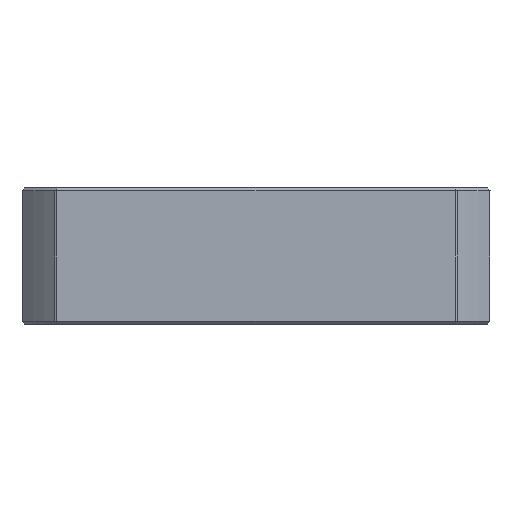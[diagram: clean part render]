
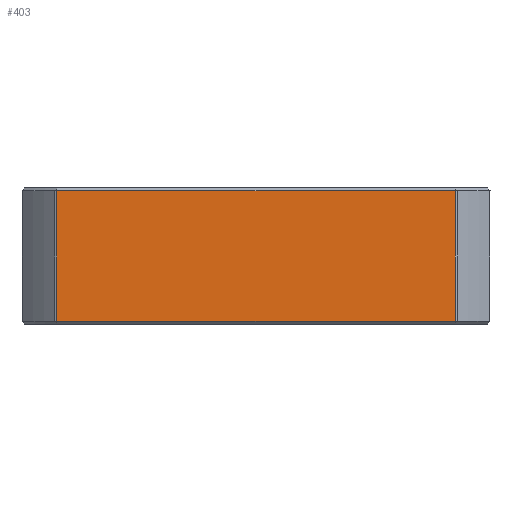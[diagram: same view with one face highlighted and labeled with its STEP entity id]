
A CAD part, left-side view. The second image highlights one B-rep face of the part: STEP entity #403.
In plain terms, the highlighted planar face has unit normal (-1, 0, 0).
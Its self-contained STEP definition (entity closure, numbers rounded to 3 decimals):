
#47 = VERTEX_POINT ( 'NONE', #1731 ) ;
#57 = EDGE_CURVE ( 'NONE', #47, #58, #1771, .T. ) ;
#58 = VERTEX_POINT ( 'NONE', #1767 ) ;
#306 = EDGE_CURVE ( 'NONE', #58, #307, #2226, .T. ) ;
#307 = VERTEX_POINT ( 'NONE', #2216 ) ;
#314 = EDGE_CURVE ( 'NONE', #307, #315, #2205, .T. ) ;
#315 = VERTEX_POINT ( 'NONE', #2201 ) ;
#403 = ADVANCED_FACE ( 'NONE', ( #2372 ), #2371, .F. ) ;
#404 = EDGE_LOOP ( 'NONE', ( #405, #406, #408, #461 ) ) ;
#405 = ORIENTED_EDGE ( 'NONE', *, *, #57, .F. ) ;
#406 = ORIENTED_EDGE ( 'NONE', *, *, #407, .T. ) ;
#407 = EDGE_CURVE ( 'NONE', #47, #315, #2366, .T. ) ;
#408 = ORIENTED_EDGE ( 'NONE', *, *, #314, .F. ) ;
#461 = ORIENTED_EDGE ( 'NONE', *, *, #306, .F. ) ;
#1731 = CARTESIAN_POINT ( 'NONE',  ( -39.5, 33.634, 0.5 ) ) ;
#1767 = CARTESIAN_POINT ( 'NONE',  ( -39.5, 33.634, 22.5 ) ) ;
#1768 = DIRECTION ( 'NONE',  ( 0., 0., 1. ) ) ;
#1769 = VECTOR ( 'NONE', #1768, 1000. ) ;
#1770 = CARTESIAN_POINT ( 'NONE',  ( -39.5, 33.634, 11.5 ) ) ;
#1771 = LINE ( 'NONE', #1770, #1769 ) ;
#2201 = CARTESIAN_POINT ( 'NONE',  ( -39.5, -33.634, 0.5 ) ) ;
#2202 = DIRECTION ( 'NONE',  ( 0., 0., -1. ) ) ;
#2203 = VECTOR ( 'NONE', #2202, 1000. ) ;
#2204 = CARTESIAN_POINT ( 'NONE',  ( -39.5, -33.634, 11.5 ) ) ;
#2205 = LINE ( 'NONE', #2204, #2203 ) ;
#2216 = CARTESIAN_POINT ( 'NONE',  ( -39.5, -33.634, 22.5 ) ) ;
#2217 = DIRECTION ( 'NONE',  ( 0., -1., 0. ) ) ;
#2218 = VECTOR ( 'NONE', #2217, 1000. ) ;
#2219 = CARTESIAN_POINT ( 'NONE',  ( -39.5, 0., 22.5 ) ) ;
#2226 = LINE ( 'NONE', #2219, #2218 ) ;
#2363 = DIRECTION ( 'NONE',  ( 0., -1., 0. ) ) ;
#2364 = VECTOR ( 'NONE', #2363, 1000. ) ;
#2365 = CARTESIAN_POINT ( 'NONE',  ( -39.5, 0., 0.5 ) ) ;
#2366 = LINE ( 'NONE', #2365, #2364 ) ;
#2367 = DIRECTION ( 'NONE',  ( 0., 1., 0. ) ) ;
#2368 = DIRECTION ( 'NONE',  ( 1., 0., 0. ) ) ;
#2369 = CARTESIAN_POINT ( 'NONE',  ( -39.5, -34.979, 0.06 ) ) ;
#2370 = AXIS2_PLACEMENT_3D ( 'NONE', #2369, #2368, #2367 ) ;
#2371 = PLANE ( 'NONE',  #2370 ) ;
#2372 = FACE_OUTER_BOUND ( 'NONE', #404, .T. ) ;
